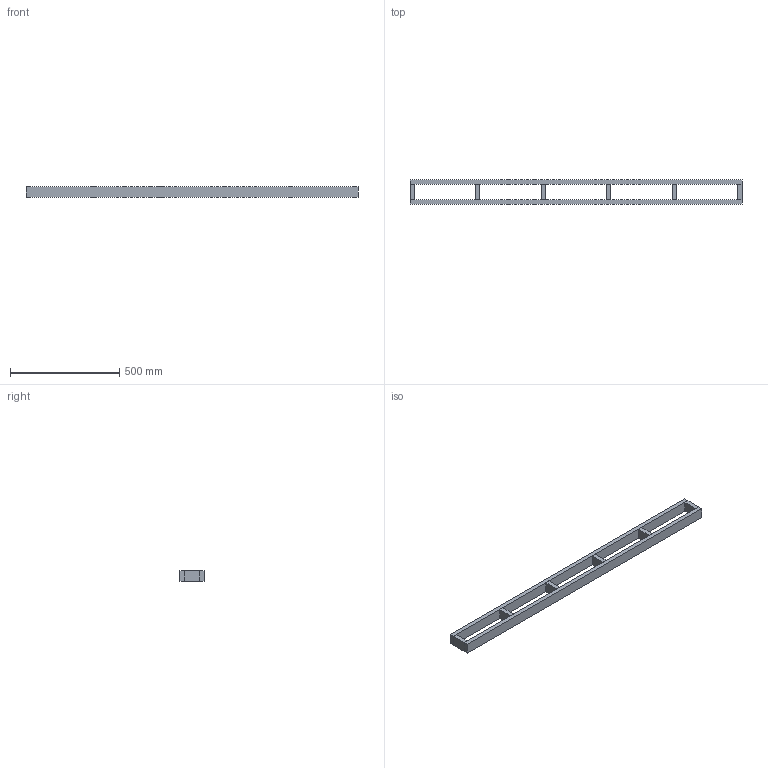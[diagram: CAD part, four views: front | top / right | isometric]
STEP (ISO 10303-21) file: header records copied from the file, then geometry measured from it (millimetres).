
FILE_DESCRIPTION(('STEP AP214'), '1');
FILE_NAME('栖闉罻', '', ('UNSPECIFIED'), ('UNSPECIFIED'), 'C3D Converter', 'C3D Toolkit', '');
FILE_SCHEMA(('AUTOMOTIVE_DESIGN { 1 0 10303 214 3 1 1}'));
Length unit declared in the file: millimetre
Assembly tree (8 placements, depth 2):
  (unnamed)
    (unnamed)  x2
    (unnamed)  x6
Bounding box: 1520 x 110 x 50 mm (x, y, z)
Volume: 3460000 mm3; surface area: 500400 mm2
Topology: 8 solids, 8 shells, 48 faces, 96 edges, 64 vertices
Faces by surface type: plane 48
Entity records: 1712 total; most frequent: CARTESIAN_POINT 171, DIRECTION 166, COLOUR_RGB 92, PRESENTATION_STYLE_ASSIGNMENT 92, AXIS2_PLACEMENT_3D 71, CURVE_STYLE 70, PRE_DEFINED_CURVE_FONT 70, SHAPE_ASPECT 50
